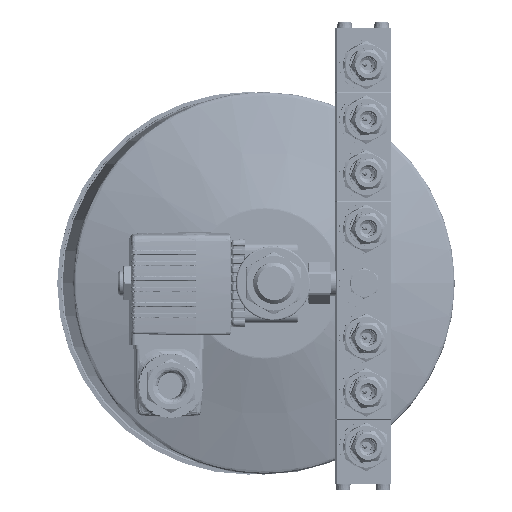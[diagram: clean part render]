
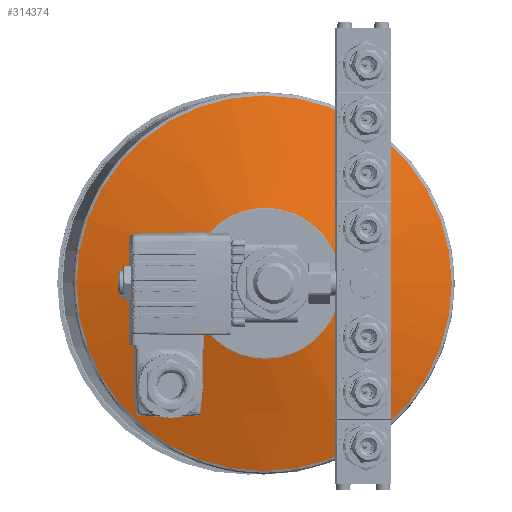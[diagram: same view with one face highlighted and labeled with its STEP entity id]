
A CAD part, left-side view. The second image highlights one B-rep face of the part: STEP entity #314374.
In plain terms, the highlighted conical face has half-angle 73.997 degrees and reference radius 75.769 mm.
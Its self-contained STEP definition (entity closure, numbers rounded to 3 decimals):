
#23205 = EDGE_LOOP ( 'NONE', ( #148746 ) ) ;
#24587 = EDGE_LOOP ( 'NONE', ( #196033 ) ) ;
#30291 = DIRECTION ( 'NONE',  ( 0., -1., 0. ) ) ;
#43409 = EDGE_CURVE ( 'NONE', #282401, #282401, #232918, .T. ) ;
#46900 = AXIS2_PLACEMENT_3D ( 'NONE', #62491, #252050, #30291 ) ;
#49125 = DIRECTION ( 'NONE',  ( 1., 0., 0. ) ) ;
#62491 = CARTESIAN_POINT ( 'NONE',  ( 86.458, 0., 0. ) ) ;
#65476 = FACE_OUTER_BOUND ( 'NONE', #23205, .T. ) ;
#65478 = CARTESIAN_POINT ( 'NONE',  ( 86.458, -75.769, 0. ) ) ;
#81014 = AXIS2_PLACEMENT_3D ( 'NONE', #309915, #157837, #258159 ) ;
#82247 = CIRCLE ( 'NONE', #144029, 30.469 ) ;
#106743 = EDGE_CURVE ( 'NONE', #301573, #301573, #82247, .T. ) ;
#117269 = CONICAL_SURFACE ( 'NONE', #81014, 75.769, 1.291 ) ;
#144029 = AXIS2_PLACEMENT_3D ( 'NONE', #319493, #49125, #147872 ) ;
#147872 = DIRECTION ( 'NONE',  ( 0., -1., 0. ) ) ;
#148746 = ORIENTED_EDGE ( 'NONE', *, *, #43409, .T. ) ;
#157837 = DIRECTION ( 'NONE',  ( 1., 0., 0. ) ) ;
#196033 = ORIENTED_EDGE ( 'NONE', *, *, #106743, .T. ) ;
#232918 = CIRCLE ( 'NONE', #46900, 75.769 ) ;
#252050 = DIRECTION ( 'NONE',  ( -1., 0., 0. ) ) ;
#258159 = DIRECTION ( 'NONE',  ( 0., 0., -1. ) ) ;
#282401 = VERTEX_POINT ( 'NONE', #65478 ) ;
#299959 = CARTESIAN_POINT ( 'NONE',  ( 73.466, -30.469, 0. ) ) ;
#301573 = VERTEX_POINT ( 'NONE', #299959 ) ;
#308309 = FACE_BOUND ( 'NONE', #24587, .T. ) ;
#309915 = CARTESIAN_POINT ( 'NONE',  ( 86.458, 0., 0. ) ) ;
#314374 = ADVANCED_FACE ( 'NONE', ( #65476, #308309 ), #117269, .T. ) ;
#319493 = CARTESIAN_POINT ( 'NONE',  ( 73.466, 0., 0. ) ) ;
